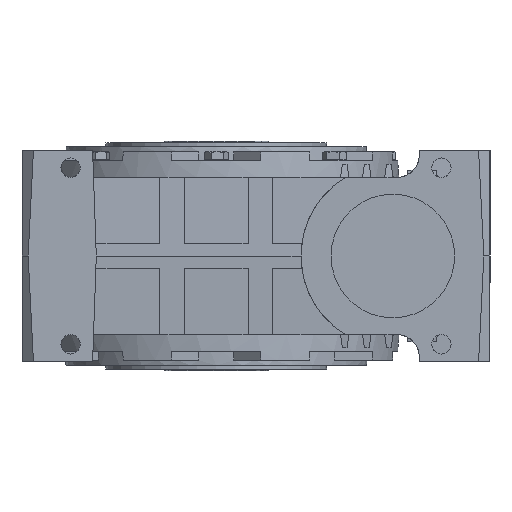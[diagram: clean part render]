
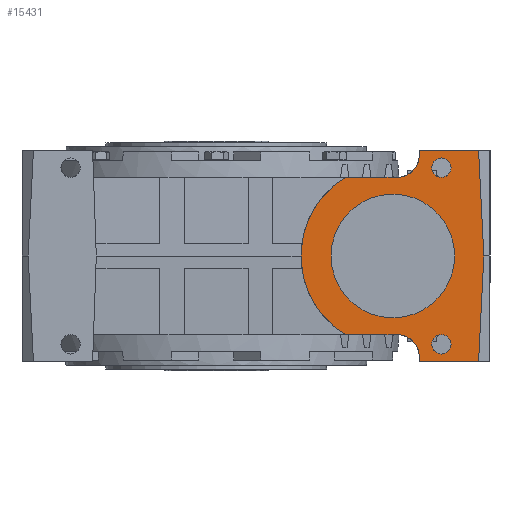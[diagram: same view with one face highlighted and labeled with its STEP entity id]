
A CAD part, left-side view. The second image highlights one B-rep face of the part: STEP entity #15431.
In plain terms, the highlighted planar face has unit normal (-1, 0, 0).
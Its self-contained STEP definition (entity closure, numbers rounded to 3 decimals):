
#196 = CARTESIAN_POINT ( 'NONE',  ( -220., -297.074, -120. ) ) ;
#1117 = CARTESIAN_POINT ( 'NONE',  ( -220., -146.195, 89. ) ) ;
#1363 = VECTOR ( 'NONE', #31203, 1000. ) ;
#1714 = VECTOR ( 'NONE', #35674, 1000. ) ;
#2182 = CARTESIAN_POINT ( 'NONE',  ( -220., -255., 111. ) ) ;
#2255 = CARTESIAN_POINT ( 'NONE',  ( -220., -200., 0. ) ) ;
#2292 = AXIS2_PLACEMENT_3D ( 'NONE', #29735, #12414, #32640 ) ;
#2318 = ORIENTED_EDGE ( 'NONE', *, *, #8658, .T. ) ;
#2528 = CARTESIAN_POINT ( 'NONE',  ( -220., -255., 100. ) ) ;
#2752 = FACE_BOUND ( 'NONE', #14550, .T. ) ;
#2829 = ORIENTED_EDGE ( 'NONE', *, *, #17028, .T. ) ;
#2855 = VECTOR ( 'NONE', #33932, 1000. ) ;
#3299 = EDGE_CURVE ( 'NONE', #12524, #8355, #13278, .T. ) ;
#3438 = VECTOR ( 'NONE', #16008, 1000. ) ;
#3516 = VECTOR ( 'NONE', #22225, 1000. ) ;
#3793 = ORIENTED_EDGE ( 'NONE', *, *, #35065, .T. ) ;
#4472 = VERTEX_POINT ( 'NONE', #13390 ) ;
#4580 = FACE_OUTER_BOUND ( 'NONE', #35276, .T. ) ;
#4833 = CIRCLE ( 'NONE', #11410, 25. ) ;
#5169 = DIRECTION ( 'NONE',  ( 0., 0., 1. ) ) ;
#5383 = CARTESIAN_POINT ( 'NONE',  ( -220., -230.07, 120. ) ) ;
#5446 = DIRECTION ( 'NONE',  ( 0., 0., 1. ) ) ;
#5477 = VERTEX_POINT ( 'NONE', #5383 ) ;
#5906 = EDGE_CURVE ( 'NONE', #10844, #12938, #11255, .T. ) ;
#6144 = DIRECTION ( 'NONE',  ( 0., -0.049, 0.999 ) ) ;
#6199 = ORIENTED_EDGE ( 'NONE', *, *, #14179, .T. ) ;
#6266 = DIRECTION ( 'NONE',  ( 1., 0., 0. ) ) ;
#6537 = VERTEX_POINT ( 'NONE', #16086 ) ;
#6604 = ORIENTED_EDGE ( 'NONE', *, *, #23300, .F. ) ;
#7103 = AXIS2_PLACEMENT_3D ( 'NONE', #26675, #15292, #35504 ) ;
#7691 = VERTEX_POINT ( 'NONE', #7864 ) ;
#7741 = ORIENTED_EDGE ( 'NONE', *, *, #31380, .T. ) ;
#7864 = CARTESIAN_POINT ( 'NONE',  ( -220., -204.845, -89. ) ) ;
#7922 = LINE ( 'NONE', #26847, #30143 ) ;
#7968 = EDGE_CURVE ( 'NONE', #17196, #5477, #7922, .T. ) ;
#8232 = CARTESIAN_POINT ( 'NONE',  ( -220., 220., -120. ) ) ;
#8355 = VERTEX_POINT ( 'NONE', #33370 ) ;
#8658 = EDGE_CURVE ( 'NONE', #33759, #23554, #11595, .T. ) ;
#8827 = CARTESIAN_POINT ( 'NONE',  ( -220., -255., -100. ) ) ;
#8969 = CARTESIAN_POINT ( 'NONE',  ( -220., -204.845, 89. ) ) ;
#9217 = VECTOR ( 'NONE', #23479, 1000. ) ;
#9659 = EDGE_CURVE ( 'NONE', #28832, #28832, #29442, .T. ) ;
#9873 = AXIS2_PLACEMENT_3D ( 'NONE', #2528, #22824, #5446 ) ;
#10134 = LINE ( 'NONE', #14747, #9217 ) ;
#10504 = FACE_BOUND ( 'NONE', #17542, .T. ) ;
#10558 = EDGE_CURVE ( 'NONE', #12556, #12556, #28038, .T. ) ;
#10839 = CARTESIAN_POINT ( 'NONE',  ( -220., -200., 70. ) ) ;
#10844 = VERTEX_POINT ( 'NONE', #1117 ) ;
#10972 = CARTESIAN_POINT ( 'NONE',  ( -220., -303., 0. ) ) ;
#11255 = LINE ( 'NONE', #13522, #3516 ) ;
#11410 = AXIS2_PLACEMENT_3D ( 'NONE', #23652, #6266, #26558 ) ;
#11422 = ORIENTED_EDGE ( 'NONE', *, *, #9659, .T. ) ;
#11595 = CIRCLE ( 'NONE', #13011, 104. ) ;
#11762 = DIRECTION ( 'NONE',  ( 0., 0., 1. ) ) ;
#11881 = CIRCLE ( 'NONE', #19783, 104. ) ;
#12414 = DIRECTION ( 'NONE',  ( 1., 0., 0. ) ) ;
#12524 = VERTEX_POINT ( 'NONE', #21419 ) ;
#12556 = VERTEX_POINT ( 'NONE', #2182 ) ;
#12938 = VERTEX_POINT ( 'NONE', #8969 ) ;
#13011 = AXIS2_PLACEMENT_3D ( 'NONE', #33469, #16153, #36349 ) ;
#13110 = CARTESIAN_POINT ( 'NONE',  ( -220., -96., 0. ) ) ;
#13278 = LINE ( 'NONE', #196, #35398 ) ;
#13390 = CARTESIAN_POINT ( 'NONE',  ( -220., -229.83, -113.128 ) ) ;
#13522 = CARTESIAN_POINT ( 'NONE',  ( -220., 0., 89. ) ) ;
#13733 = CARTESIAN_POINT ( 'NONE',  ( -220., -230.07, 120. ) ) ;
#13757 = VECTOR ( 'NONE', #25489, 1000. ) ;
#13773 = CARTESIAN_POINT ( 'NONE',  ( -220., -96.253, 7.255 ) ) ;
#13859 = CARTESIAN_POINT ( 'NONE',  ( -220., 220., -89. ) ) ;
#13890 = ORIENTED_EDGE ( 'NONE', *, *, #37322, .T. ) ;
#14179 = EDGE_CURVE ( 'NONE', #4472, #6537, #10134, .T. ) ;
#14473 = EDGE_LOOP ( 'NONE', ( #34883 ) ) ;
#14550 = EDGE_LOOP ( 'NONE', ( #6604 ) ) ;
#14747 = CARTESIAN_POINT ( 'NONE',  ( -220., -229.83, -113.128 ) ) ;
#15292 = DIRECTION ( 'NONE',  ( -1., 0., 0. ) ) ;
#15386 = VERTEX_POINT ( 'NONE', #35253 ) ;
#15431 = ADVANCED_FACE ( 'NONE', ( #2752, #18195, #4580, #10504 ), #29716, .T. ) ;
#15761 = EDGE_CURVE ( 'NONE', #8355, #17196, #24523, .T. ) ;
#16008 = DIRECTION ( 'NONE',  ( 0., -0.035, -0.999 ) ) ;
#16086 = CARTESIAN_POINT ( 'NONE',  ( -220., -230.07, -120. ) ) ;
#16153 = DIRECTION ( 'NONE',  ( -1., 0., 0. ) ) ;
#16336 = CARTESIAN_POINT ( 'NONE',  ( -220., -297.074, 120. ) ) ;
#17005 = DIRECTION ( 'NONE',  ( 1., 0., 0. ) ) ;
#17028 = EDGE_CURVE ( 'NONE', #29595, #15386, #32553, .T. ) ;
#17051 = ORIENTED_EDGE ( 'NONE', *, *, #28511, .T. ) ;
#17196 = VERTEX_POINT ( 'NONE', #16336 ) ;
#17542 = EDGE_LOOP ( 'NONE', ( #11422 ) ) ;
#17628 = LINE ( 'NONE', #8232, #24418 ) ;
#17785 = AXIS2_PLACEMENT_3D ( 'NONE', #8827, #29083, #11762 ) ;
#18195 = FACE_BOUND ( 'NONE', #14473, .T. ) ;
#19783 = AXIS2_PLACEMENT_3D ( 'NONE', #2255, #22545, #5169 ) ;
#20068 = CARTESIAN_POINT ( 'NONE',  ( -220., -255., -89. ) ) ;
#20416 = EDGE_CURVE ( 'NONE', #5477, #20815, #33672, .T. ) ;
#20815 = VERTEX_POINT ( 'NONE', #34331 ) ;
#21080 = EDGE_CURVE ( 'NONE', #23554, #7691, #29108, .T. ) ;
#21419 = CARTESIAN_POINT ( 'NONE',  ( -220., -297.074, -120. ) ) ;
#21484 = CARTESIAN_POINT ( 'NONE',  ( -220., -146.195, -89. ) ) ;
#21511 = CARTESIAN_POINT ( 'NONE',  ( -220., -96.253, -7.255 ) ) ;
#22225 = DIRECTION ( 'NONE',  ( 0., -1., 0. ) ) ;
#22545 = DIRECTION ( 'NONE',  ( -1., 0., 0. ) ) ;
#22824 = DIRECTION ( 'NONE',  ( -1., 0., 0. ) ) ;
#23300 = EDGE_CURVE ( 'NONE', #33330, #33330, #36244, .T. ) ;
#23479 = DIRECTION ( 'NONE',  ( 0., -0.035, -0.999 ) ) ;
#23554 = VERTEX_POINT ( 'NONE', #21484 ) ;
#23652 = CARTESIAN_POINT ( 'NONE',  ( -220., -204.845, -114. ) ) ;
#23674 = ORIENTED_EDGE ( 'NONE', *, *, #3299, .T. ) ;
#24036 = CIRCLE ( 'NONE', #34121, 25. ) ;
#24418 = VECTOR ( 'NONE', #28503, 1000. ) ;
#24523 = LINE ( 'NONE', #10972, #1363 ) ;
#25460 = ORIENTED_EDGE ( 'NONE', *, *, #15761, .T. ) ;
#25489 = DIRECTION ( 'NONE',  ( 0., -1., 0. ) ) ;
#26558 = DIRECTION ( 'NONE',  ( 0., 0., 1. ) ) ;
#26675 = CARTESIAN_POINT ( 'NONE',  ( -220., 220., 120. ) ) ;
#26847 = CARTESIAN_POINT ( 'NONE',  ( -220., 220., 120. ) ) ;
#28038 = CIRCLE ( 'NONE', #9873, 11. ) ;
#28503 = DIRECTION ( 'NONE',  ( 0., -1., 0. ) ) ;
#28511 = EDGE_CURVE ( 'NONE', #6537, #12524, #17628, .T. ) ;
#28832 = VERTEX_POINT ( 'NONE', #10839 ) ;
#29083 = DIRECTION ( 'NONE',  ( -1., 0., 0. ) ) ;
#29108 = LINE ( 'NONE', #13859, #13757 ) ;
#29442 = CIRCLE ( 'NONE', #2292, 70. ) ;
#29595 = VERTEX_POINT ( 'NONE', #13773 ) ;
#29716 = PLANE ( 'NONE',  #7103 ) ;
#29735 = CARTESIAN_POINT ( 'NONE',  ( -220., -200., 0. ) ) ;
#30143 = VECTOR ( 'NONE', #32669, 1000. ) ;
#31041 = ORIENTED_EDGE ( 'NONE', *, *, #33340, .T. ) ;
#31203 = DIRECTION ( 'NONE',  ( 0., 0.049, 0.999 ) ) ;
#31380 = EDGE_CURVE ( 'NONE', #15386, #33759, #33350, .T. ) ;
#32544 = ORIENTED_EDGE ( 'NONE', *, *, #20416, .T. ) ;
#32553 = LINE ( 'NONE', #32790, #1714 ) ;
#32640 = DIRECTION ( 'NONE',  ( 0., 0., 1. ) ) ;
#32669 = DIRECTION ( 'NONE',  ( 0., 1., 0. ) ) ;
#32751 = ORIENTED_EDGE ( 'NONE', *, *, #7968, .T. ) ;
#32790 = CARTESIAN_POINT ( 'NONE',  ( -220., -96.253, 7.255 ) ) ;
#33330 = VERTEX_POINT ( 'NONE', #20068 ) ;
#33340 = EDGE_CURVE ( 'NONE', #10844, #29595, #11881, .T. ) ;
#33350 = LINE ( 'NONE', #13110, #3438 ) ;
#33370 = CARTESIAN_POINT ( 'NONE',  ( -220., -303., 0. ) ) ;
#33469 = CARTESIAN_POINT ( 'NONE',  ( -220., -200., 0. ) ) ;
#33672 = LINE ( 'NONE', #13733, #2855 ) ;
#33759 = VERTEX_POINT ( 'NONE', #21511 ) ;
#33877 = ORIENTED_EDGE ( 'NONE', *, *, #5906, .F. ) ;
#33932 = DIRECTION ( 'NONE',  ( 0., 0.035, -0.999 ) ) ;
#34121 = AXIS2_PLACEMENT_3D ( 'NONE', #34327, #17005, #37209 ) ;
#34327 = CARTESIAN_POINT ( 'NONE',  ( -220., -204.845, 114. ) ) ;
#34331 = CARTESIAN_POINT ( 'NONE',  ( -220., -229.83, 113.128 ) ) ;
#34883 = ORIENTED_EDGE ( 'NONE', *, *, #10558, .F. ) ;
#35065 = EDGE_CURVE ( 'NONE', #20815, #12938, #24036, .T. ) ;
#35253 = CARTESIAN_POINT ( 'NONE',  ( -220., -96., 0. ) ) ;
#35276 = EDGE_LOOP ( 'NONE', ( #32751, #32544, #3793, #33877, #31041, #2829, #7741, #2318, #35281, #13890, #6199, #17051, #23674, #25460 ) ) ;
#35281 = ORIENTED_EDGE ( 'NONE', *, *, #21080, .T. ) ;
#35398 = VECTOR ( 'NONE', #6144, 1000. ) ;
#35504 = DIRECTION ( 'NONE',  ( 0., 0., 1. ) ) ;
#35674 = DIRECTION ( 'NONE',  ( 0., 0.035, -0.999 ) ) ;
#36244 = CIRCLE ( 'NONE', #17785, 11. ) ;
#36349 = DIRECTION ( 'NONE',  ( 0., 0., 1. ) ) ;
#37209 = DIRECTION ( 'NONE',  ( 0., 0., 1. ) ) ;
#37322 = EDGE_CURVE ( 'NONE', #7691, #4472, #4833, .T. ) ;
